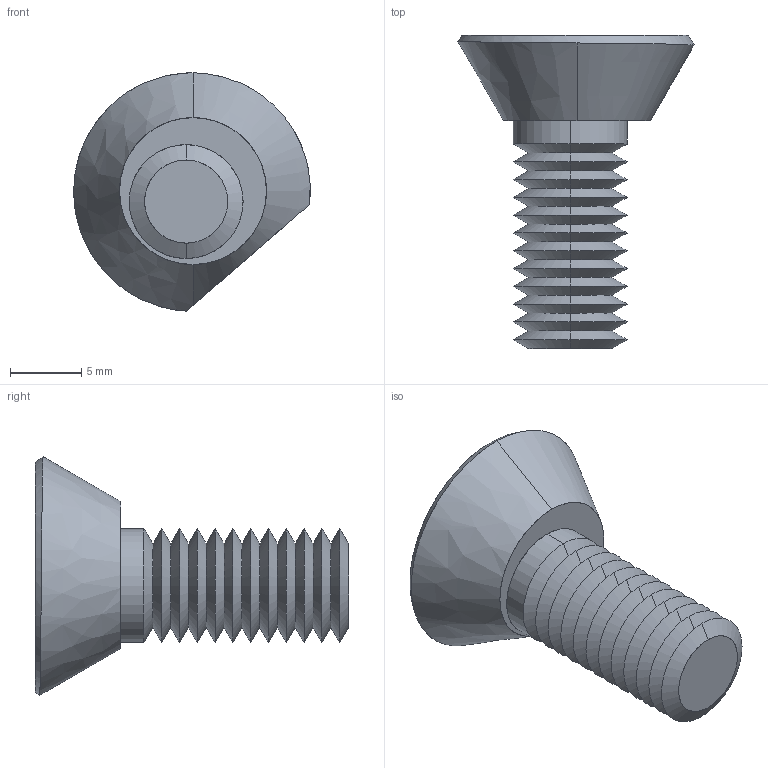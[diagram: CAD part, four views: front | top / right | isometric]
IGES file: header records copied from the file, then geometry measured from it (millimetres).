
Start section: SolidWorks IGES file using analytic representation for surfaces
Global section: file name: C:\Users\IanO\Desktop\Temp File\General\12111_v2\12111_v2_20180517_IGES\12111.W0008.igs; native system: SolidWorks 2017; preprocessor: SolidWorks 2017; author: IanO; date: 180522.151934; units: millimetre
Bounding box: 16.62 x 22 x 16.75 mm (x, y, z)
Surface area: 1293.8 mm2 (no closed solid volume)
Topology: 0 solids, 0 shells, 75 faces, 582 edges, 580 vertices
Faces by surface type: revolution 58, bspline 17
